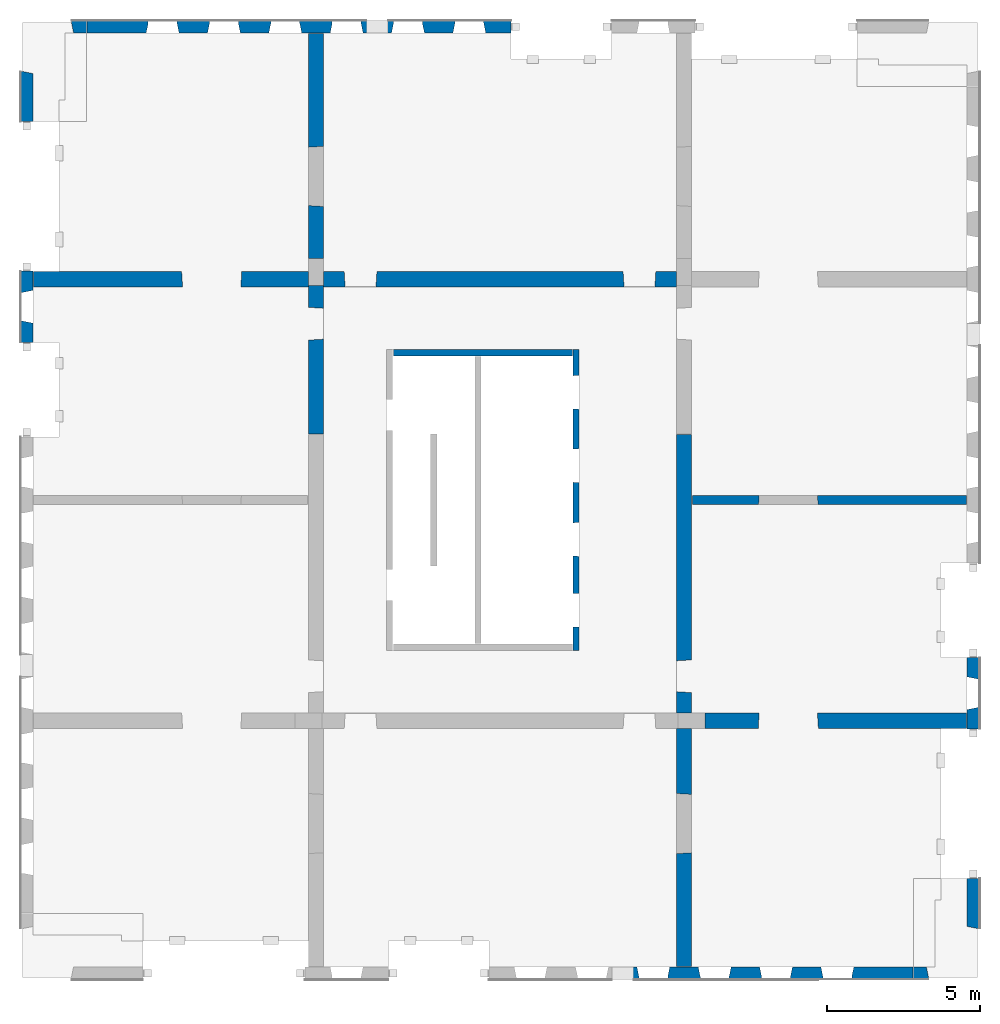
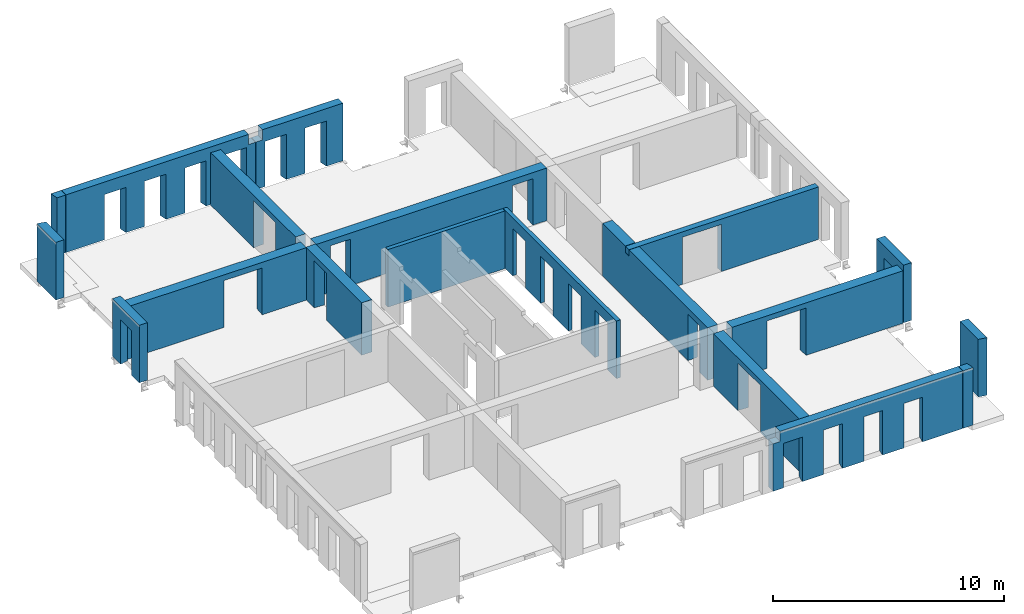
# One storey, part 3 of 6: 19 walls, 34 openings.
"""IFC2X3 building model written with IfcOpenShell, lengths in millimetres."""

import ifcopenshell
import ifcopenshell.guid

model = None  # the IFC model being written
_history = None  # IfcOwnerHistory: only IFC2X3 demands one
_inside = {}  # id of a spatial element -> (the spatial element, [elements in it])
_under = {}  # id of a project, library or spatial element -> (it, [spatial elements below it])
_declared = {}  # id of a project -> (the project, [libraries it declares])
_typed = {}  # id of a type object -> (the type object, [elements of that type])
_made_of = {}  # id of a material, layer set ... -> (it, [elements and type objects made of it])


def new_model(schema):
    """Start an empty IFC model of exactly this schema.

    Asked for "IFC4X3", IfcOpenShell would pick the latest addendum, in which some entities
    have other attributes; the version numbers below select the first issue.
    IFC2X3 requires an IfcOwnerHistory on every rooted entity: one is made here for all.
    """
    global model, _history
    if schema == "IFC4X3":
        model = ifcopenshell.file(schema_version=(4, 3, 0, 0))
    else:
        model = ifcopenshell.file(schema=schema)
    _inside.clear()
    _under.clear()
    _declared.clear()
    _typed.clear()
    _made_of.clear()
    _history = None
    if model.schema == "IFC2X3":
        org = make("IfcOrganization", Name="unknown")
        user = make(
            "IfcPersonAndOrganization",
            ThePerson=make("IfcPerson", FamilyName="unknown"),
            TheOrganization=org,
        )
        app = make(
            "IfcApplication",
            ApplicationDeveloper=org,
            Version="unknown",
            ApplicationFullName="unknown",
            ApplicationIdentifier="unknown",
        )
        _history = make(
            "IfcOwnerHistory",
            OwningUser=user,
            OwningApplication=app,
            ChangeAction="ADDED",
            CreationDate=0,
        )
    return model


def make(cls, **values):
    """One entity of the class cls with the attributes given. An attribute that is None is left unset."""
    return model.create_entity(
        cls, **{name: value for name, value in values.items() if value is not None}
    )


def entity(cls, *values):
    """Any entity or typed value of the class cls, its attributes in the order of the schema. None: left unset."""
    e = model.create_entity(cls)
    for i, value in enumerate(values):
        if value is not None:
            e[i] = value
    return e


def rooted(cls, **values):
    """An entity with a GlobalId (a new one), such as an element, a storey or a relation."""
    return make(cls, GlobalId=ifcopenshell.guid.new(), OwnerHistory=_history, **values)


def si_unit(unit_type, name, prefix=None):
    """IfcSIUnit, for example si_unit("LENGTHUNIT", "METRE", prefix="MILLI")."""
    return make("IfcSIUnit", UnitType=unit_type, Prefix=prefix, Name=name)


def converted_unit(unit_type, name, factor, base, dimensions=None, offset=None):
    """IfcConversionBasedUnit, such as the inch: factor (a typed value) times the base unit."""
    return make(
        "IfcConversionBasedUnit"
        if offset is None
        else "IfcConversionBasedUnitWithOffset",
        ConversionOffset=offset,
        Dimensions=None
        if dimensions is None
        else entity("IfcDimensionalExponents", *dimensions),
        UnitType=unit_type,
        Name=name,
        ConversionFactor=make(
            "IfcMeasureWithUnit", ValueComponent=factor, UnitComponent=base
        ),
    )


def derived_unit(unit_type, elements):
    """IfcDerivedUnit: a product of units, each with its exponent."""
    return make(
        "IfcDerivedUnit",
        Elements=[
            make("IfcDerivedUnitElement", Unit=unit, Exponent=power)
            for unit, power in elements
        ],
        UnitType=unit_type,
    )


def assignment(units):
    """IfcUnitAssignment: the units of a project."""
    return None if units is None else make("IfcUnitAssignment", Units=units)


def point(xyz):
    """IfcCartesianPoint."""
    return None if xyz is None else make("IfcCartesianPoint", Coordinates=xyz)


def direction(xyz):
    """IfcDirection."""
    return None if xyz is None else make("IfcDirection", DirectionRatios=xyz)


def frame(location, z_axis=None, x_axis=None):
    """IfcAxis2Placement3D, a coordinate frame: its origin and axes. An axis left out is left unset."""
    return make(
        "IfcAxis2Placement3D",
        Location=point(location),
        Axis=direction(z_axis),
        RefDirection=direction(x_axis),
    )


def frame_2d(location, x_axis=None):
    """IfcAxis2Placement2D, a coordinate frame in the plane: its origin and x axis."""
    return make(
        "IfcAxis2Placement2D", Location=point(location), RefDirection=direction(x_axis)
    )


def origin():
    """The frame at (0, 0, 0) with its axes left unset."""
    return frame((0.0, 0.0, 0.0))


def place(relative_to, where):
    """IfcLocalPlacement: puts the frame where relative to a parent placement (None: the world)."""
    return make(
        "IfcLocalPlacement", PlacementRelTo=relative_to, RelativePlacement=where
    )


def context(
    kind, dimensions, precision=None, world=None, true_north=None, identifier=None
):
    """IfcGeometricRepresentationContext, for example the 3D "Model" context."""
    return make(
        "IfcGeometricRepresentationContext",
        ContextIdentifier=identifier,
        ContextType=kind,
        CoordinateSpaceDimension=dimensions,
        Precision=precision,
        WorldCoordinateSystem=world,
        TrueNorth=true_north,
    )


def subcontext(parent, identifier, kind, view, scale=None):
    """IfcGeometricRepresentationSubContext, for example "Body" below "Model"."""
    return make(
        "IfcGeometricRepresentationSubContext",
        ContextIdentifier=identifier,
        ContextType=kind,
        ParentContext=parent,
        TargetScale=scale,
        TargetView=view,
    )


def project(units=None, contexts=None):
    """IfcProject with its units and contexts."""
    return rooted(
        "IfcProject",
        Name="project",
        RepresentationContexts=contexts,
        UnitsInContext=assignment(units),
    )


def spatial(cls, under=None, at=None, **own):
    """A site, building, storey or space (cls), placed at a placement, below another one or the project."""
    s = rooted(cls, ObjectPlacement=at, **own)
    if under is not None:
        _under.setdefault(under.id(), (under, []))[1].append(s)
    return s


def profile(cls, at=None, kind="AREA", **sizes):
    """A parametric profile (cls). Its sizes go by their IFC names, for example OverallWidth=200.0."""
    return make(cls, ProfileType=kind, Position=at, **sizes)


def rectangle(**sizes):
    """IfcRectangleProfileDef."""
    return profile("IfcRectangleProfileDef", **sizes)


def extrude(swept, where, along, depth):
    """IfcExtrudedAreaSolid: the profile swept, set in the frame where, extruded along a direction by depth."""
    return make(
        "IfcExtrudedAreaSolid",
        SweptArea=swept,
        Position=where,
        ExtrudedDirection=direction(along),
        Depth=depth,
    )


def faces_of(points, faces, orient=None, outer=None):
    """IfcFace entities. A face is a list of loops; a loop is a list of indices into points, from 0.

    orient and outer hold one flag for each loop. By default every Orientation is true, the
    first loop of a face is its IfcFaceOuterBound and the others are IfcFaceBound.
    """
    made = []
    for i, loops in enumerate(faces):
        bounds = []
        for j, loop in enumerate(loops):
            is_outer = j == 0 if outer is None else outer[i][j]
            bounds.append(
                make(
                    "IfcFaceOuterBound" if is_outer else "IfcFaceBound",
                    Bound=make("IfcPolyLoop", Polygon=[points[k] for k in loop]),
                    Orientation=True if orient is None else orient[i][j],
                )
            )
        made.append(make("IfcFace", Bounds=bounds))
    return made


def faceted_brep(points, faces, orient=None, outer=None, voids=None):
    """IfcFacetedBrep: a solid bounded by flat faces; with voids (closed shells), ...WithVoids."""
    shared = [point(p) for p in points]
    hull = make("IfcClosedShell", CfsFaces=faces_of(shared, faces, orient, outer))
    if voids is None:
        return make("IfcFacetedBrep", Outer=hull)
    return make(
        "IfcFacetedBrepWithVoids",
        Outer=hull,
        Voids=[
            make(cls, CfsFaces=faces_of(shared, fs, o, b)) for cls, fs, o, b in voids
        ],
    )


def shape(context_of_items, identifier, shape_type, items):
    """IfcShapeRepresentation: the items that make up one representation, for example the "Body"."""
    return make(
        "IfcShapeRepresentation",
        ContextOfItems=context_of_items,
        RepresentationIdentifier=identifier,
        RepresentationType=shape_type,
        Items=items,
    )


def material(Name=None, Category=None):
    """IfcMaterial."""
    return make("IfcMaterial", Name=Name, Category=Category)


def layer(
    of_material, thickness, ventilated=None, Name=None, Category=None, Priority=None
):
    """IfcMaterialLayer: one layer of a wall or slab, of a material (None: an air gap)."""
    return make(
        "IfcMaterialLayer",
        Material=of_material,
        LayerThickness=thickness,
        IsVentilated=ventilated,
        Name=Name,
        Category=Category,
        Priority=Priority,
    )


def layer_set(layers, Name=None):
    """IfcMaterialLayerSet."""
    return make("IfcMaterialLayerSet", MaterialLayers=layers, LayerSetName=Name)


def layer_usage(for_layer_set, set_direction, sense, offset, extent=None):
    """IfcMaterialLayerSetUsage: how a layer set lies in its element."""
    return make(
        "IfcMaterialLayerSetUsage",
        ForLayerSet=for_layer_set,
        LayerSetDirection=set_direction,
        DirectionSense=sense,
        OffsetFromReferenceLine=offset,
        ReferenceExtent=extent,
    )


def made_of(thing, what):
    """Note that an element or type object is made of a material, layer set ...; save() writes the relation."""
    if what is not None:
        _made_of.setdefault(what.id(), (what, []))[1].append(thing)
    return thing


def type_object(cls, material=None, **own):
    """A type object (cls), such as IfcWallType, which elements share."""
    return made_of(rooted(cls, **own), material)


def element(
    cls,
    number,
    at=None,
    inside=None,
    cuts=None,
    type_object=None,
    material=None,
    context=None,
    identifier="Body",
    shape_type=None,
    held_by="IfcProductDefinitionShape",
    body=None,
    shapes=None,
    **own,
):
    """One element of the class cls, such as IfcWall. Its Tag is "e" and its number.

    at: its placement. inside: the storey or other place that contains it. cuts: it is an
    opening in that element (IfcRelVoidsElement). A single representation is given by context,
    identifier, shape_type and body (its items); several are given by shapes. held_by: the class
    of the entity that holds the representations. save() writes the other relations.
    """
    e = rooted(cls, Tag="e%d" % number, ObjectPlacement=at, **own)
    if body is not None:
        shapes = [shape(context, identifier, shape_type, body)]
    if shapes is not None:
        e.Representation = make(held_by, Representations=shapes)
    if inside is not None:
        _inside.setdefault(inside.id(), (inside, []))[1].append(e)
    if cuts is not None:
        rooted(
            "IfcRelVoidsElement", RelatingBuildingElement=cuts, RelatedOpeningElement=e
        )
    if type_object is not None:
        _typed.setdefault(type_object.id(), (type_object, []))[1].append(e)
    return made_of(e, material)


def aggregate(whole, parts):
    """IfcRelAggregates: a whole, such as a stair, and the parts it consists of."""
    return rooted("IfcRelAggregates", RelatingObject=whole, RelatedObjects=parts)


def save(model, path):
    """Write the relations noted so far, then the file.

    IfcRelAggregates (storeys below a building ...), IfcRelContainedInSpatialStructure (elements
    in a storey), IfcRelDefinesByType, IfcRelAssociatesMaterial and IfcRelDeclares: one each for
    every whole, place, type object, material and project.
    """
    for whole, parts in _under.values():
        aggregate(whole, parts)
    for where, things in _inside.values():
        rooted(
            "IfcRelContainedInSpatialStructure",
            RelatedElements=things,
            RelatingStructure=where,
        )
    for kind, things in _typed.values():
        rooted("IfcRelDefinesByType", RelatedObjects=things, RelatingType=kind)
    for what, things in _made_of.values():
        rooted("IfcRelAssociatesMaterial", RelatedObjects=things, RelatingMaterial=what)
    for by, libraries in _declared.values():
        rooted("IfcRelDeclares", RelatingContext=by, RelatedDefinitions=libraries)
    model.write(path)


model = new_model("IFC2X3")

# Units and contexts
model_context = context("Model", 3, precision=0.01, world=origin(), true_north=direction((6.12303176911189e-17, 1.0)))
body_context = subcontext(model_context, "Body", "Model", "MODEL_VIEW")
ifc_project = project(units=[si_unit("LENGTHUNIT", "METRE", prefix="MILLI"), si_unit("AREAUNIT", "SQUARE_METRE"), si_unit("VOLUMEUNIT", "CUBIC_METRE"), converted_unit("PLANEANGLEUNIT", "DEGREE", entity("IfcRatioMeasure", 0.0174532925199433), si_unit("PLANEANGLEUNIT", "RADIAN"), dimensions=[0, 0, 0, 0, 0, 0, 0]), si_unit("MASSUNIT", "GRAM", prefix="KILO"), derived_unit("MASSDENSITYUNIT", [(si_unit("MASSUNIT", "GRAM", prefix="KILO"), 1), (si_unit("LENGTHUNIT", "METRE"), -3)]), si_unit("TIMEUNIT", "SECOND"), si_unit("FREQUENCYUNIT", "HERTZ"), si_unit("THERMODYNAMICTEMPERATUREUNIT", "DEGREE_CELSIUS"), derived_unit("THERMALTRANSMITTANCEUNIT", [(si_unit("MASSUNIT", "GRAM", prefix="KILO"), 1), (si_unit("THERMODYNAMICTEMPERATUREUNIT", "KELVIN"), -1), (si_unit("TIMEUNIT", "SECOND"), -3)]), derived_unit("VOLUMETRICFLOWRATEUNIT", [(si_unit("LENGTHUNIT", "METRE"), 3), (si_unit("TIMEUNIT", "SECOND"), -1)]), si_unit("ELECTRICCURRENTUNIT", "AMPERE"), si_unit("ELECTRICVOLTAGEUNIT", "VOLT"), si_unit("POWERUNIT", "WATT"), si_unit("FORCEUNIT", "NEWTON", prefix="KILO"), si_unit("ILLUMINANCEUNIT", "LUX"), si_unit("LUMINOUSFLUXUNIT", "LUMEN"), si_unit("LUMINOUSINTENSITYUNIT", "CANDELA"), derived_unit("USERDEFINED", [(si_unit("MASSUNIT", "GRAM", prefix="KILO"), -1), (si_unit("LENGTHUNIT", "METRE"), -2), (si_unit("TIMEUNIT", "SECOND"), 3), (si_unit("LUMINOUSFLUXUNIT", "LUMEN"), 1)]), derived_unit("LINEARVELOCITYUNIT", [(si_unit("LENGTHUNIT", "METRE"), 1), (si_unit("TIMEUNIT", "SECOND"), -1)]), si_unit("PRESSUREUNIT", "PASCAL"), derived_unit("USERDEFINED", [(si_unit("LENGTHUNIT", "METRE"), -2), (si_unit("MASSUNIT", "GRAM", prefix="KILO"), 1), (si_unit("TIMEUNIT", "SECOND"), -2)])], contexts=[model_context])

# Site, building, storey
site_placement = place(None, origin())
site = spatial("IfcSite", under=ifc_project, at=site_placement, Name="Default", CompositionType="ELEMENT")
building_placement = place(site_placement, origin())
building = spatial("IfcBuilding", under=site, at=building_placement, Name="niet gebruiken", CompositionType="ELEMENT")
storey_placement = place(building_placement, frame((0.0, 0.0, 21060.0)))
storey = spatial("IfcBuildingStorey", under=building, at=storey_placement, Name="06 zesde verdieping", CompositionType="ELEMENT", Elevation=21060.0)

# Wall, openings
ifc_material = material(Name="NLRS_f2_beton prefab")
ifc_layer_1 = layer(ifc_material, 200.0)
ifc_layer_set_1 = layer_set([ifc_layer_1], Name="Basic Wall:NLRS_22.21_WA_beton prefab d=200_gen")
ifc_layer_usage_1 = layer_usage(ifc_layer_set_1, "AXIS2", "NEGATIVE", 100.0)
wall_type_1 = type_object("IfcWallType", Name="Basic Wall:NLRS_22.21_WA_beton prefab d=200_gen", PredefinedType="STANDARD", material=ifc_layer_set_1)
wall_1_placement = place(storey_placement, frame((144230.0, 22400.0, -50.0), z_axis=(0.0, 0.0, 1.0), x_axis=(0.0, -1.0, 0.0)))
wall_1 = element("IfcWallStandardCase", 1, at=wall_1_placement, inside=storey, type_object=wall_type_1, material=ifc_layer_usage_1, Name="Basic Wall:NLRS_22.21_WA_beton prefab d=200_gen", ObjectType="Basic Wall:NLRS_22.21_WA_beton prefab d=200_gen", context=body_context, shape_type="SweptSolid", body=[
    extrude(rectangle(XDim=9800.0, YDim=199.999999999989, at=frame_2d((4900.0, -3.69482222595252e-13), x_axis=(-1.0, 0.0))), origin(), (0.0, 0.0, 1.0), 3039.99999999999),
])
opening_1_placement = place(wall_1_placement, frame((9047.0, -100.0, 0.0)))
element("IfcOpeningElement", 2, at=opening_1_placement, cuts=wall_1, Name="Basic Wall:NLRS_22.21_WA_beton prefab d=200_gen", ObjectType="Opening", context=body_context, shape_type="Brep", body=[
    faceted_brep([(-1104.0, 200.0, 2502.0), (-1104.0, 200.0, 0.0), (-1092.0, 0.0, 0.0), (-1092.0, 0.0, 2490.0), (0.0, 200.0, 0.0), (-12.0, 0.0, 0.0), (-12.0, 0.0, 2490.0), (0.0, 200.0, 2502.0)], [[[0, 1, 2, 3]], [[1, 4, 5, 2]], [[6, 3, 2, 5]], [[7, 4, 1, 0]], [[7, 0, 3, 6]], [[4, 7, 6, 5]]]),
])
opening_2_placement = place(wall_1_placement, frame((6737.0, -100.0, 0.0)))
element("IfcOpeningElement", 3, at=opening_2_placement, cuts=wall_1, Name="Basic Wall:NLRS_22.21_WA_beton prefab d=200_gen", ObjectType="Opening", context=body_context, shape_type="Brep", body=[
    faceted_brep([(-1104.0, 200.0, 2502.0), (-1104.0, 200.0, 0.0), (-1092.0, 0.0, 0.0), (-1092.0, 0.0, 2490.0), (0.0, 200.0, 0.0), (-12.0, 0.0, 0.0), (-12.0, 0.0, 2490.0), (0.0, 200.0, 2502.0)], [[[0, 1, 2, 3]], [[1, 4, 5, 2]], [[6, 3, 2, 5]], [[7, 4, 1, 0]], [[7, 0, 3, 6]], [[4, 7, 6, 5]]]),
])
opening_3_placement = place(wall_1_placement, frame((4332.0, -100.0, 0.0)))
element("IfcOpeningElement", 4, at=opening_3_placement, cuts=wall_1, Name="Basic Wall:NLRS_22.21_WA_beton prefab d=200_gen", ObjectType="Opening", context=body_context, shape_type="Brep", body=[
    faceted_brep([(-1104.0, 200.0, 2502.0), (-1104.0, 200.0, 0.0), (-1092.0, 0.0, 0.0), (-1092.0, 0.0, 2490.0), (0.0, 200.0, 0.0), (-12.0, 0.0, 0.0), (-12.0, 0.0, 2490.0), (0.0, 200.0, 2502.0)], [[[0, 1, 2, 3]], [[1, 4, 5, 2]], [[6, 3, 2, 5]], [[7, 4, 1, 0]], [[7, 0, 3, 6]], [[4, 7, 6, 5]]]),
])
opening_4_placement = place(wall_1_placement, frame((1942.0, -100.0, 0.0)))
element("IfcOpeningElement", 5, at=opening_4_placement, cuts=wall_1, Name="Basic Wall:NLRS_22.21_WA_beton prefab d=200_gen", ObjectType="Opening", context=body_context, shape_type="Brep", body=[
    faceted_brep([(-1104.0, 200.0, 2502.0), (-1104.0, 200.0, 0.0), (-1092.0, 0.0, 0.0), (-1092.0, 0.0, 2490.0), (0.0, 200.0, 0.0), (-12.0, 0.0, 0.0), (-12.0, 0.0, 2490.0), (0.0, 200.0, 2502.0)], [[[0, 1, 2, 3]], [[1, 4, 5, 2]], [[6, 3, 2, 5]], [[7, 4, 1, 0]], [[7, 0, 3, 6]], [[4, 7, 6, 5]]]),
])

# Wall
ifc_layer_usage_2 = layer_usage(ifc_layer_set_1, "AXIS2", "NEGATIVE", 100.0)
wall_2_placement = place(storey_placement, frame((138270.0, 22300.0, -50.0)))
element("IfcWallStandardCase", 6, at=wall_2_placement, inside=storey, type_object=wall_type_1, material=ifc_layer_usage_2, Name="Basic Wall:NLRS_22.21_WA_beton prefab d=200_gen", ObjectType="Basic Wall:NLRS_22.21_WA_beton prefab d=200_gen", context=body_context, shape_type="SweptSolid", body=[
    extrude(rectangle(XDim=5839.99999999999, YDim=199.999999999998, at=frame_2d((2919.99999999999, -7.60280727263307e-13), x_axis=(-1.0, 0.0))), origin(), (0.0, 0.0, 1.0), 3039.99999999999),
])

# Wall, openings
ifc_layer_2 = layer(ifc_material, 300.0)
ifc_layer_set_2 = layer_set([ifc_layer_2], Name="Basic Wall:NLRS_22.21_WA_beton prefab d=300_gen")
ifc_layer_usage_3 = layer_usage(ifc_layer_set_2, "AXIS2", "NEGATIVE", 150.0)
wall_type_2 = type_object("IfcWallType", Name="Basic Wall:NLRS_22.21_WA_beton prefab d=300_gen", PredefinedType="STANDARD", material=ifc_layer_set_2)
wall_3_placement = place(storey_placement, frame((156960.0, 17500.0, -70.0), z_axis=(0.0, 0.0, 1.0), x_axis=(-1.0, 0.0, 0.0)))
wall_3 = element("IfcWallStandardCase", 7, at=wall_3_placement, inside=storey, type_object=wall_type_2, material=ifc_layer_usage_3, Name="Basic Wall:NLRS_22.21_WA_beton prefab d=300_gen", ObjectType="Basic Wall:NLRS_22.21_WA_beton prefab d=300_gen", context=body_context, shape_type="SweptSolid", body=[
    extrude(rectangle(XDim=9459.99999999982, YDim=300.000000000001, at=frame_2d((4729.99999999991, 2.27373675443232e-13), x_axis=(-1.0, 0.0))), origin(), (0.0, 0.0, 1.0), 2770.0),
])
opening_5_placement = place(wall_3_placement, frame((6778.0, 150.0, 0.0)))
element("IfcOpeningElement", 8, at=opening_5_placement, cuts=wall_3, Name="Basic Wall:NLRS_22.21_WA_beton prefab d=300_gen", ObjectType="Opening", context=body_context, shape_type="Brep", body=[
    faceted_brep([(-18.0, -300.0, 2470.0), (-1918.0, -300.0, 2470.0), (-1918.0, -300.0, 0.0), (-18.0, -300.0, 0.0), (0.0, 0.0, 2488.0), (0.0, 0.0, 0.0), (-1936.0, 0.0, 0.0), (-1936.0, 0.0, 2488.0)], [[[0, 1, 2, 3]], [[4, 5, 6, 7]], [[4, 7, 1, 0]], [[7, 6, 2, 1]], [[6, 5, 3, 2]], [[5, 4, 0, 3]]]),
])
opening_6_placement = place(wall_3_placement, origin())
element("IfcOpeningElement", 9, at=opening_6_placement, cuts=wall_3, Name="Basic Wall:NLRS_22.21_WA_beton prefab d=300_gen", ObjectType="Opening", context=body_context, shape_type="SweptSolid", body=[
    extrude(rectangle(XDim=2440.0, YDim=520.000000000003, at=frame_2d((8.64019966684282e-12, 2.1600499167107e-12), x_axis=(0.0, 1.0))), frame((9200.0, 150.0, 1220.0), z_axis=(0.0, -1.0, 0.0), x_axis=(1.0, 0.0, 0.0)), (0.0, 0.0, 1.0), 300.0),
])

# Wall, opening
ifc_layer_3 = layer(ifc_material, 400.0)
ifc_layer_set_3 = layer_set([ifc_layer_3], Name="Basic Wall:NLRS_21.21_WA_beton prefab d=400/420_gen")
ifc_layer_usage_4 = layer_usage(ifc_layer_set_3, "AXIS2", "NEGATIVE", 200.0)
wall_type_3 = type_object("IfcWallType", Name="Basic Wall:NLRS_21.21_WA_beton prefab d=400/420_gen", PredefinedType="STANDARD", material=ifc_layer_set_3)
wall_4_placement = place(storey_placement, frame((155720.0, 2070.0, -50.0), z_axis=(0.0, 0.0, 1.0), x_axis=(-1.0, 0.0, 0.0)))
wall_4 = element("IfcWallStandardCase", 10, at=wall_4_placement, inside=storey, type_object=wall_type_3, material=ifc_layer_usage_4, Name="Basic Wall:NLRS_21.21_WA_beton prefab d=400/420_gen", ObjectType="Basic Wall:NLRS_21.21_WA_beton prefab d=400/420_gen", context=body_context, shape_type="SweptSolid", body=[
    extrude(rectangle(XDim=490.000000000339, YDim=400.0, at=frame_2d((245.00000000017, 4.2632564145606e-14), x_axis=(-1.0, 0.0))), origin(), (0.0, 0.0, 1.0), 3040.0),
])
opening_7_placement = place(wall_4_placement, frame((65.0, 119.0, 0.0)))
element("IfcOpeningElement", 11, at=opening_7_placement, cuts=wall_4, Name="Basic Wall:NLRS_21.21_WA_beton prefab d=400/420_gen", ObjectType="Opening", context=body_context, shape_type="Brep", body=[
    faceted_brep([(-65.0, -319.0, 3040.0), (0.0, -319.0, 3040.0), (-65.0, 0.0, 3040.0), (-65.0, -319.0, 0.0), (-65.0, 0.0, 0.0), (0.0, -319.0, 0.0)], [[[0, 1, 2]], [[3, 4, 5]], [[1, 0, 3, 5]], [[0, 2, 4, 3]], [[2, 1, 5, 4]]]),
])

ifc_layer_usage_5 = layer_usage(ifc_layer_set_3, "AXIS2", "NEGATIVE", 200.0)
wall_5_placement = place(storey_placement, frame((157180.0, 5160.0, -50.0), z_axis=(0.0, 0.0, 1.0), x_axis=(0.0, -1.0, 0.0)))
wall_5 = element("IfcWallStandardCase", 12, at=wall_5_placement, inside=storey, type_object=wall_type_3, material=ifc_layer_usage_5, Name="Basic Wall:NLRS_21.21_WA_beton prefab d=400/420_gen", ObjectType="Basic Wall:NLRS_21.21_WA_beton prefab d=400/420_gen", context=body_context, shape_type="SweptSolid", body=[
    extrude(rectangle(XDim=1629.99999999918, YDim=399.999999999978, at=frame_2d((814.999999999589, 6.28119778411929e-12), x_axis=(-1.0, 0.0))), origin(), (0.0, 0.0, 1.0), 3040.0),
])
opening_8_placement = place(wall_5_placement, frame((1630.0, -200.0, 0.0)))
element("IfcOpeningElement", 13, at=opening_8_placement, cuts=wall_5, Name="Basic Wall:NLRS_21.21_WA_beton prefab d=400/420_gen", ObjectType="Opening", context=body_context, shape_type="Brep", body=[
    faceted_brep([(0.0, 0.0, 3040.0), (0.0, 319.0, 3040.0), (-65.0, 0.0, 3040.0), (0.0, 0.0, 0.0), (-65.0, 0.0, 0.0), (0.0, 319.0, 0.0)], [[[0, 1, 2]], [[3, 4, 5]], [[2, 4, 3, 0]], [[0, 3, 5, 1]], [[1, 5, 4, 2]]]),
])

ifc_layer_usage_6 = layer_usage(ifc_layer_set_3, "AXIS2", "NEGATIVE", 200.0)
wall_6_placement = place(storey_placement, frame((127780.0, 32930.0, -50.0)))
wall_6 = element("IfcWallStandardCase", 14, at=wall_6_placement, inside=storey, type_object=wall_type_3, material=ifc_layer_usage_6, Name="Basic Wall:NLRS_21.21_WA_beton prefab d=400/420_gen", ObjectType="Basic Wall:NLRS_21.21_WA_beton prefab d=400/420_gen", context=body_context, shape_type="SweptSolid", body=[
    extrude(rectangle(XDim=490.000000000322, YDim=400.000000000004, at=frame_2d((245.000000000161, 1.06581410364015e-12), x_axis=(-1.0, 0.0))), origin(), (0.0, 0.0, 1.0), 3040.0),
])
opening_9_placement = place(wall_6_placement, frame((0.0, -200.0, 0.0)))
element("IfcOpeningElement", 15, at=opening_9_placement, cuts=wall_6, Name="Basic Wall:NLRS_21.21_WA_beton prefab d=400/420_gen", ObjectType="Opening", context=body_context, shape_type="Brep", body=[
    faceted_brep([(0.0, 0.0, 3040.0), (65.0, 0.0, 3040.0), (0.0, 319.0, 3040.0), (0.0, 0.0, 0.0), (0.0, 319.0, 0.0), (65.0, 0.0, 0.0)], [[[0, 1, 2]], [[3, 4, 5]], [[1, 0, 3, 5]], [[0, 2, 4, 3]], [[2, 1, 5, 4]]]),
])

ifc_layer_usage_7 = layer_usage(ifc_layer_set_3, "AXIS2", "NEGATIVE", 200.0)
wall_7_placement = place(storey_placement, frame((126320.0, 29840.0, -50.0), z_axis=(0.0, 0.0, 1.0), x_axis=(0.0, 1.0, 0.0)))
wall_7 = element("IfcWallStandardCase", 16, at=wall_7_placement, inside=storey, type_object=wall_type_3, material=ifc_layer_usage_7, Name="Basic Wall:NLRS_21.21_WA_beton prefab d=400/420_gen", ObjectType="Basic Wall:NLRS_21.21_WA_beton prefab d=400/420_gen", context=body_context, shape_type="SweptSolid", body=[
    extrude(rectangle(XDim=1629.99999999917, YDim=400.000000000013, at=frame_2d((814.999999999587, 2.41584530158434e-12), x_axis=(-1.0, 0.0))), origin(), (0.0, 0.0, 1.0), 3040.0),
])
opening_10_placement = place(wall_7_placement, frame((1565.0, 119.0, 0.0)))
element("IfcOpeningElement", 17, at=opening_10_placement, cuts=wall_7, Name="Basic Wall:NLRS_21.21_WA_beton prefab d=400/420_gen", ObjectType="Opening", context=body_context, shape_type="Brep", body=[
    faceted_brep([(65.0, -319.0, 3040.0), (65.0, 0.0, 3040.0), (0.0, -319.0, 3040.0), (65.0, -319.0, 0.0), (0.0, -319.0, 0.0), (65.0, 0.0, 0.0)], [[[0, 1, 2]], [[3, 4, 5]], [[2, 4, 3, 0]], [[0, 3, 5, 1]], [[1, 5, 4, 2]]]),
])

ifc_layer_usage_8 = layer_usage(ifc_layer_set_3, "AXIS2", "NEGATIVE", 200.0)
wall_8_placement = place(storey_placement, frame((126320.0, 22640.0, -50.0), z_axis=(0.0, 0.0, 1.0), x_axis=(0.0, 1.0, 0.0)))
wall_8 = element("IfcWallStandardCase", 18, at=wall_8_placement, inside=storey, type_object=wall_type_3, material=ifc_layer_usage_8, Name="Basic Wall:NLRS_21.21_WA_beton prefab d=400/420_gen", ObjectType="Basic Wall:NLRS_21.21_WA_beton prefab d=400/420_gen", context=body_context, shape_type="SweptSolid", body=[
    extrude(rectangle(XDim=2320.0, YDim=400.000000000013, at=frame_2d((1160.0, -3.62376795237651e-12), x_axis=(-1.0, 0.0))), origin(), (0.0, 0.0, 1.0), 3040.0),
])
opening_11_placement = place(wall_8_placement, frame((625.0, 200.0, -20.0)))
element("IfcOpeningElement", 19, at=opening_11_placement, cuts=wall_8, Name="Basic Wall:NLRS_21.21_WA_beton prefab d=400/420_gen", ObjectType="Opening", context=body_context, shape_type="Brep", body=[
    faceted_brep([(0.0, -400.0, 2405.0), (0.0, -400.0, 0.0), (1070.0, -400.0, 0.0), (1070.0, -400.0, 2405.0), (1005.0, -81.0, 2370.0), (65.0, -81.0, 2370.0), (1005.0, -81.0, 0.0), (65.0, -81.0, 0.0), (65.0, 0.0, 0.0), (1005.0, 0.0, 0.0), (65.0, 0.0, 2370.0), (1005.0, 0.0, 2370.0)], [[[0, 1, 2, 3]], [[3, 4, 5, 0]], [[2, 6, 4, 3]], [[1, 7, 8, 9, 6, 2]], [[0, 5, 7, 1]], [[10, 11, 9, 8]], [[10, 5, 4, 11]], [[11, 4, 6, 9]], [[8, 7, 5, 10]]]),
])

# Wall, openings
ifc_layer_usage_9 = layer_usage(ifc_layer_set_3, "AXIS2", "NEGATIVE", 200.0)
wall_9_placement = place(storey_placement, frame((128290.0, 32930.0, -50.0)))
wall_9 = element("IfcWallStandardCase", 20, at=wall_9_placement, inside=storey, type_object=wall_type_3, material=ifc_layer_usage_9, Name="Basic Wall:NLRS_21.21_WA_beton prefab d=400/420_gen", ObjectType="Basic Wall:NLRS_21.21_WA_beton prefab d=400/420_gen", context=body_context, shape_type="SweptSolid", body=[
    extrude(rectangle(XDim=9449.99999999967, YDim=399.999999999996, at=frame_2d((4724.99999999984, 0.0), x_axis=(-1.0, 0.0))), origin(), (0.0, 0.0, 1.0), 3040.0),
])
opening_12_placement = place(wall_9_placement, frame((3925.0, -200.0, -20.0)))
element("IfcOpeningElement", 21, at=opening_12_placement, cuts=wall_9, Name="Basic Wall:NLRS_21.21_WA_beton prefab d=400/420_gen", ObjectType="Opening", context=body_context, shape_type="Brep", body=[
    faceted_brep([(1070.0, 0.0, 2405.0), (0.0, 0.0, 2405.0), (0.0, 0.0, 0.0), (1070.0, 0.0, 0.0), (1005.0, 319.0, 2370.0), (65.0, 319.0, 2370.0), (65.0, 319.0, 0.0), (65.0, 400.0, 0.0), (1005.0, 400.0, 0.0), (1005.0, 319.0, 0.0), (1005.0, 400.0, 2370.0), (65.0, 400.0, 2370.0)], [[[0, 1, 2, 3]], [[1, 0, 4, 5]], [[2, 1, 5, 6]], [[3, 2, 6, 7, 8, 9]], [[0, 3, 9, 4]], [[10, 8, 7, 11]], [[10, 11, 5, 4]], [[11, 7, 6, 5]], [[8, 10, 4, 9]]]),
])
opening_13_placement = place(wall_9_placement, frame((1925.0, -200.0, -20.0)))
element("IfcOpeningElement", 22, at=opening_13_placement, cuts=wall_9, Name="Basic Wall:NLRS_21.21_WA_beton prefab d=400/420_gen", ObjectType="Opening", context=body_context, shape_type="Brep", body=[
    faceted_brep([(1070.0, 0.0, 2405.0), (0.0, 0.0, 2405.0), (0.0, 0.0, 0.0), (1070.0, 0.0, 0.0), (1005.0, 319.0, 2370.0), (65.0, 319.0, 2370.0), (65.0, 319.0, 0.0), (65.0, 400.0, 0.0), (1005.0, 400.0, 0.0), (1005.0, 319.0, 0.0), (1005.0, 400.0, 2370.0), (65.0, 400.0, 2370.0)], [[[0, 1, 2, 3]], [[1, 0, 4, 5]], [[2, 1, 5, 6]], [[3, 2, 6, 7, 8, 9]], [[0, 3, 9, 4]], [[10, 8, 7, 11]], [[10, 11, 5, 4]], [[11, 7, 6, 5]], [[8, 10, 4, 9]]]),
])
opening_14_placement = place(wall_9_placement, frame((7925.0, -200.0, -20.0)))
element("IfcOpeningElement", 23, at=opening_14_placement, cuts=wall_9, Name="Basic Wall:NLRS_21.21_WA_beton prefab d=400/420_gen", ObjectType="Opening", context=body_context, shape_type="Brep", body=[
    faceted_brep([(1070.0, 0.0, 2405.0), (0.0, 0.0, 2405.0), (0.0, 0.0, 0.0), (1070.0, 0.0, 0.0), (1005.0, 319.0, 2370.0), (65.0, 319.0, 2370.0), (65.0, 319.0, 0.0), (65.0, 400.0, 0.0), (1005.0, 400.0, 0.0), (1005.0, 319.0, 0.0), (1005.0, 400.0, 2370.0), (65.0, 400.0, 2370.0)], [[[0, 1, 2, 3]], [[1, 0, 4, 5]], [[2, 1, 5, 6]], [[3, 2, 6, 7, 8, 9]], [[0, 3, 9, 4]], [[10, 8, 7, 11]], [[10, 11, 5, 4]], [[11, 7, 6, 5]], [[8, 10, 4, 9]]]),
])
opening_15_placement = place(wall_9_placement, frame((5925.0, -200.0, -20.0)))
element("IfcOpeningElement", 24, at=opening_15_placement, cuts=wall_9, Name="Basic Wall:NLRS_21.21_WA_beton prefab d=400/420_gen", ObjectType="Opening", context=body_context, shape_type="Brep", body=[
    faceted_brep([(1070.0, 0.0, 2405.0), (0.0, 0.0, 2405.0), (0.0, 0.0, 0.0), (1070.0, 0.0, 0.0), (1005.0, 319.0, 2370.0), (65.0, 319.0, 2370.0), (65.0, 319.0, 0.0), (65.0, 400.0, 0.0), (1005.0, 400.0, 0.0), (1005.0, 319.0, 0.0), (1005.0, 400.0, 2370.0), (65.0, 400.0, 2370.0)], [[[0, 1, 2, 3]], [[1, 0, 4, 5]], [[2, 1, 5, 6]], [[3, 2, 6, 7, 8, 9]], [[0, 3, 9, 4]], [[10, 8, 7, 11]], [[10, 11, 5, 4]], [[11, 7, 6, 5]], [[8, 10, 4, 9]]]),
])
opening_16_placement = place(wall_9_placement, origin())
element("IfcOpeningElement", 25, at=opening_16_placement, cuts=wall_9, Name="Basic Wall:NLRS_21.21_WA_beton prefab d=400/420_gen", ObjectType="Opening", context=body_context, shape_type="SweptSolid", body=[
    extrude(rectangle(XDim=535.0, YDim=345.000000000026, at=frame_2d((0.0, -8.66862137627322e-12), x_axis=(1.0, 0.0))), frame((9277.49999999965, 200.0, 2772.5), z_axis=(0.0, -1.0, 0.0), x_axis=(0.0, 0.0, 1.0)), (0.0, 0.0, 1.0), 400.0),
])

# Wall, opening
ifc_layer_usage_10 = layer_usage(ifc_layer_set_3, "AXIS2", "NEGATIVE", 200.0)
wall_10_placement = place(storey_placement, frame((157180.0, 12360.0, -50.0), z_axis=(0.0, 0.0, 1.0), x_axis=(0.0, -1.0, 0.0)))
wall_10 = element("IfcWallStandardCase", 26, at=wall_10_placement, inside=storey, type_object=wall_type_3, material=ifc_layer_usage_10, Name="Basic Wall:NLRS_21.21_WA_beton prefab d=400/420_gen", ObjectType="Basic Wall:NLRS_21.21_WA_beton prefab d=400/420_gen", context=body_context, shape_type="SweptSolid", body=[
    extrude(rectangle(XDim=2320.0, YDim=399.999999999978, at=frame_2d((1160.0, -8.38440428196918e-12), x_axis=(-1.0, 0.0))), origin(), (0.0, 0.0, 1.0), 3040.0),
])
opening_17_placement = place(wall_10_placement, frame((1695.0, -200.0, -20.0)))
element("IfcOpeningElement", 27, at=opening_17_placement, cuts=wall_10, Name="Basic Wall:NLRS_21.21_WA_beton prefab d=400/420_gen", ObjectType="Opening", context=body_context, shape_type="Brep", body=[
    faceted_brep([(-1070.0, 0.0, 2405.0), (-1070.0, 0.0, 0.0), (0.0, 0.0, 0.0), (0.0, 0.0, 2405.0), (-65.0, 319.0, 2370.0), (-1005.0, 319.0, 2370.0), (-65.0, 319.0, 0.0), (-1005.0, 319.0, 0.0), (-1005.0, 400.0, 0.0), (-65.0, 400.0, 0.0), (-1005.0, 400.0, 2370.0), (-65.0, 400.0, 2370.0)], [[[0, 1, 2, 3]], [[3, 4, 5, 0]], [[2, 6, 4, 3]], [[1, 7, 8, 9, 6, 2]], [[0, 5, 7, 1]], [[10, 11, 9, 8]], [[10, 5, 4, 11]], [[11, 4, 6, 9]], [[8, 7, 5, 10]]]),
])

# Wall, openings
ifc_layer_usage_11 = layer_usage(ifc_layer_set_3, "AXIS2", "NEGATIVE", 200.0)
wall_11_placement = place(storey_placement, frame((137760.0, 32930.0, -50.0)))
wall_11 = element("IfcWallStandardCase", 28, at=wall_11_placement, inside=storey, type_object=wall_type_3, material=ifc_layer_usage_11, Name="Basic Wall:NLRS_21.21_WA_beton prefab d=400/420_gen", ObjectType="Basic Wall:NLRS_21.21_WA_beton prefab d=400/420_gen", context=body_context, shape_type="SweptSolid", body=[
    extrude(rectangle(XDim=4350.0000000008, YDim=399.999999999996, at=frame_2d((2175.0000000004, 0.0), x_axis=(-1.0, 0.0))), origin(), (0.0, 0.0, 1.0), 3040.0),
])
opening_18_placement = place(wall_11_placement, frame((2455.0, -200.0, -20.0)))
element("IfcOpeningElement", 29, at=opening_18_placement, cuts=wall_11, Name="Basic Wall:NLRS_21.21_WA_beton prefab d=400/420_gen", ObjectType="Opening", context=body_context, shape_type="Brep", body=[
    faceted_brep([(1070.0, 0.0, 2405.0), (0.0, 0.0, 2405.0), (0.0, 0.0, 0.0), (1070.0, 0.0, 0.0), (1005.0, 319.0, 2370.0), (65.0, 319.0, 2370.0), (65.0, 319.0, 0.0), (65.0, 400.0, 0.0), (1005.0, 400.0, 0.0), (1005.0, 319.0, 0.0), (1005.0, 400.0, 2370.0), (65.0, 400.0, 2370.0)], [[[0, 1, 2, 3]], [[1, 0, 4, 5]], [[2, 1, 5, 6]], [[3, 2, 6, 7, 8, 9]], [[0, 3, 9, 4]], [[10, 8, 7, 11]], [[10, 11, 5, 4]], [[11, 7, 6, 5]], [[8, 10, 4, 9]]]),
])
opening_19_placement = place(wall_11_placement, frame((455.0, -200.0, -20.0)))
element("IfcOpeningElement", 30, at=opening_19_placement, cuts=wall_11, Name="Basic Wall:NLRS_21.21_WA_beton prefab d=400/420_gen", ObjectType="Opening", context=body_context, shape_type="Brep", body=[
    faceted_brep([(1070.0, 0.0, 2405.0), (0.0, 0.0, 2405.0), (0.0, 0.0, 0.0), (1070.0, 0.0, 0.0), (1005.0, 319.0, 2370.0), (65.0, 319.0, 2370.0), (65.0, 319.0, 0.0), (65.0, 400.0, 0.0), (1005.0, 400.0, 0.0), (1005.0, 319.0, 0.0), (1005.0, 400.0, 2370.0), (65.0, 400.0, 2370.0)], [[[0, 1, 2, 3]], [[1, 0, 4, 5]], [[2, 1, 5, 6]], [[3, 2, 6, 7, 8, 9]], [[0, 3, 9, 4]], [[10, 8, 7, 11]], [[10, 11, 5, 4]], [[11, 7, 6, 5]], [[8, 10, 4, 9]]]),
])
opening_20_placement = place(wall_11_placement, origin())
element("IfcOpeningElement", 31, at=opening_20_placement, cuts=wall_11, Name="Basic Wall:NLRS_21.21_WA_beton prefab d=400/420_gen", ObjectType="Opening", context=body_context, shape_type="SweptSolid", body=[
    extrude(rectangle(XDim=535.0, YDim=345.000000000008, at=frame_2d((0.0, 0.0), x_axis=(0.0, 1.0))), frame((172.499999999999, 200.0, 2772.5), z_axis=(0.0, -1.0, 0.0), x_axis=(-1.0, 0.0, 0.0)), (0.0, 0.0, 1.0), 400.0),
])

ifc_layer_usage_12 = layer_usage(ifc_layer_set_3, "AXIS2", "NEGATIVE", 200.0)
wall_12_placement = place(storey_placement, frame((155210.0, 2070.0, -50.0), z_axis=(0.0, 0.0, 1.0), x_axis=(-1.0, 0.0, 0.0)))
wall_12 = element("IfcWallStandardCase", 32, at=wall_12_placement, inside=storey, type_object=wall_type_3, material=ifc_layer_usage_12, Name="Basic Wall:NLRS_21.21_WA_beton prefab d=400/420_gen", ObjectType="Basic Wall:NLRS_21.21_WA_beton prefab d=400/420_gen", context=body_context, shape_type="SweptSolid", body=[
    extrude(rectangle(XDim=9449.99999999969, YDim=400.0, at=frame_2d((4724.99999999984, -2.8421709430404e-14), x_axis=(-1.0, 0.0))), origin(), (0.0, 0.0, 1.0), 3040.0),
])
opening_21_placement = place(wall_12_placement, frame((4995.0, 200.0, -20.0)))
element("IfcOpeningElement", 33, at=opening_21_placement, cuts=wall_12, Name="Basic Wall:NLRS_21.21_WA_beton prefab d=400/420_gen", ObjectType="Opening", context=body_context, shape_type="Brep", body=[
    faceted_brep([(0.0, -400.0, 2405.0), (-1070.0, -400.0, 2405.0), (-1070.0, -400.0, 0.0), (0.0, -400.0, 0.0), (-65.0, -81.0, 2370.0), (-1005.0, -81.0, 2370.0), (-1005.0, -81.0, 0.0), (-1005.0, 0.0, 0.0), (-65.0, 0.0, 0.0), (-65.0, -81.0, 0.0), (-65.0, 0.0, 2370.0), (-1005.0, 0.0, 2370.0)], [[[0, 1, 2, 3]], [[1, 0, 4, 5]], [[2, 1, 5, 6]], [[3, 2, 6, 7, 8, 9]], [[0, 3, 9, 4]], [[10, 8, 7, 11]], [[10, 11, 5, 4]], [[11, 7, 6, 5]], [[8, 10, 4, 9]]]),
])
opening_22_placement = place(wall_12_placement, frame((2995.0, 200.0, -20.0)))
element("IfcOpeningElement", 34, at=opening_22_placement, cuts=wall_12, Name="Basic Wall:NLRS_21.21_WA_beton prefab d=400/420_gen", ObjectType="Opening", context=body_context, shape_type="Brep", body=[
    faceted_brep([(0.0, -400.0, 2405.0), (-1070.0, -400.0, 2405.0), (-1070.0, -400.0, 0.0), (0.0, -400.0, 0.0), (-65.0, -81.0, 2370.0), (-1005.0, -81.0, 2370.0), (-1005.0, -81.0, 0.0), (-1005.0, 0.0, 0.0), (-65.0, 0.0, 0.0), (-65.0, -81.0, 0.0), (-65.0, 0.0, 2370.0), (-1005.0, 0.0, 2370.0)], [[[0, 1, 2, 3]], [[1, 0, 4, 5]], [[2, 1, 5, 6]], [[3, 2, 6, 7, 8, 9]], [[0, 3, 9, 4]], [[10, 8, 7, 11]], [[10, 11, 5, 4]], [[11, 7, 6, 5]], [[8, 10, 4, 9]]]),
])
opening_23_placement = place(wall_12_placement, frame((8995.0, 200.0, -20.0)))
element("IfcOpeningElement", 35, at=opening_23_placement, cuts=wall_12, Name="Basic Wall:NLRS_21.21_WA_beton prefab d=400/420_gen", ObjectType="Opening", context=body_context, shape_type="Brep", body=[
    faceted_brep([(0.0, -400.0, 2405.0), (-1070.0, -400.0, 2405.0), (-1070.0, -400.0, 0.0), (0.0, -400.0, 0.0), (-65.0, -81.0, 2370.0), (-1005.0, -81.0, 2370.0), (-1005.0, -81.0, 0.0), (-1005.0, 0.0, 0.0), (-65.0, 0.0, 0.0), (-65.0, -81.0, 0.0), (-65.0, 0.0, 2370.0), (-1005.0, 0.0, 2370.0)], [[[0, 1, 2, 3]], [[1, 0, 4, 5]], [[2, 1, 5, 6]], [[3, 2, 6, 7, 8, 9]], [[0, 3, 9, 4]], [[10, 8, 7, 11]], [[10, 11, 5, 4]], [[11, 7, 6, 5]], [[8, 10, 4, 9]]]),
])
opening_24_placement = place(wall_12_placement, frame((6995.0, 200.0, -20.0)))
element("IfcOpeningElement", 36, at=opening_24_placement, cuts=wall_12, Name="Basic Wall:NLRS_21.21_WA_beton prefab d=400/420_gen", ObjectType="Opening", context=body_context, shape_type="Brep", body=[
    faceted_brep([(0.0, -400.0, 2405.0), (-1070.0, -400.0, 2405.0), (-1070.0, -400.0, 0.0), (0.0, -400.0, 0.0), (-65.0, -81.0, 2370.0), (-1005.0, -81.0, 2370.0), (-1005.0, -81.0, 0.0), (-1005.0, 0.0, 0.0), (-65.0, 0.0, 0.0), (-65.0, -81.0, 0.0), (-65.0, 0.0, 2370.0), (-1005.0, 0.0, 2370.0)], [[[0, 1, 2, 3]], [[1, 0, 4, 5]], [[2, 1, 5, 6]], [[3, 2, 6, 7, 8, 9]], [[0, 3, 9, 4]], [[10, 8, 7, 11]], [[10, 11, 5, 4]], [[11, 7, 6, 5]], [[8, 10, 4, 9]]]),
])
opening_25_placement = place(wall_12_placement, origin())
element("IfcOpeningElement", 37, at=opening_25_placement, cuts=wall_12, Name="Basic Wall:NLRS_21.21_WA_beton prefab d=400/420_gen", ObjectType="Opening", context=body_context, shape_type="SweptSolid", body=[
    extrude(rectangle(XDim=535.0, YDim=345.000000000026, at=frame_2d((0.0, -8.66862137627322e-12), x_axis=(1.0, 0.0))), frame((9277.49999999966, 200.0, 2772.5), z_axis=(0.0, -1.0, 0.0), x_axis=(0.0, 0.0, 1.0)), (0.0, 0.0, 1.0), 400.0),
])

ifc_layer_4 = layer(ifc_material, 500.0)
ifc_layer_set_4 = layer_set([ifc_layer_4], Name="Basic Wall:NLRS_22.21_WA_beton prefab d=500_gen")
ifc_layer_usage_13 = layer_usage(ifc_layer_set_4, "AXIS2", "NEGATIVE", 250.0)
wall_type_4 = type_object("IfcWallType", Name="Basic Wall:NLRS_22.21_WA_beton prefab d=500_gen", PredefinedType="STANDARD", material=ifc_layer_set_4)
wall_13_placement = place(storey_placement, frame((136000.0, 24700.0, -70.0)))
wall_13 = element("IfcWallStandardCase", 38, at=wall_13_placement, inside=storey, type_object=wall_type_4, material=ifc_layer_usage_13, Name="Basic Wall:NLRS_22.21_WA_beton prefab d=500_gen", ObjectType="Basic Wall:NLRS_22.21_WA_beton prefab d=500_gen", context=body_context, shape_type="SweptSolid", body=[
    extrude(rectangle(XDim=11499.9999999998, YDim=499.999999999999, at=frame_2d((5749.99999999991, 0.0), x_axis=(-1.0, 0.0))), origin(), (0.0, 0.0, 1.0), 2770.00000000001),
])
opening_26_placement = place(wall_13_placement, frame((670.0, -250.0, 0.0)))
element("IfcOpeningElement", 39, at=opening_26_placement, cuts=wall_13, Name="Basic Wall:NLRS_22.21_WA_beton prefab d=500_gen", ObjectType="Opening", context=body_context, shape_type="Brep", body=[
    faceted_brep([(1066.0, 500.0, 2478.0), (1036.0, 0.0, 2448.0), (1036.0, 0.0, 0.0), (1066.0, 500.0, 0.0), (30.0, 0.0, 0.0), (0.0, 500.0, 0.0), (30.0, 0.0, 2448.0), (0.0, 500.0, 2478.0)], [[[0, 1, 2, 3]], [[3, 2, 4, 5]], [[6, 4, 2, 1]], [[7, 0, 3, 5]], [[7, 6, 1, 0]], [[5, 4, 6, 7]]]),
])
opening_27_placement = place(wall_13_placement, frame((9764.0, -250.0, 0.0)))
element("IfcOpeningElement", 40, at=opening_27_placement, cuts=wall_13, Name="Basic Wall:NLRS_22.21_WA_beton prefab d=500_gen", ObjectType="Opening", context=body_context, shape_type="Brep", body=[
    faceted_brep([(30.0, 0.0, 2448.0), (30.0, 0.0, 0.0), (1036.0, 0.0, 0.0), (1036.0, 0.0, 2448.0), (0.0, 500.0, 2478.0), (1066.0, 500.0, 2478.0), (1066.0, 500.0, 0.0), (0.0, 500.0, 0.0)], [[[0, 1, 2, 3]], [[4, 5, 6, 7]], [[4, 0, 3, 5]], [[5, 3, 2, 6]], [[6, 2, 1, 7]], [[7, 1, 0, 4]]]),
])

# Wall, opening
ifc_layer_usage_14 = layer_usage(ifc_layer_set_4, "AXIS2", "NEGATIVE", 250.0)
wall_14_placement = place(storey_placement, frame((135750.0, 24500.0, -70.0), z_axis=(0.0, 0.0, 1.0), x_axis=(0.0, -1.0, 0.0)))
wall_14 = element("IfcWallStandardCase", 41, at=wall_14_placement, inside=storey, type_object=wall_type_4, material=ifc_layer_usage_14, Name="Basic Wall:NLRS_22.21_WA_beton prefab d=500_gen", ObjectType="Basic Wall:NLRS_22.21_WA_beton prefab d=500_gen", context=body_context, shape_type="SweptSolid", body=[
    extrude(rectangle(XDim=4840.00000000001, YDim=499.99999999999, at=frame_2d((2420.0, 0.0), x_axis=(-1.0, 0.0))), origin(), (0.0, 0.0, 1.0), 2770.00000000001),
])
opening_28_placement = place(wall_14_placement, frame((1786.0, -250.0, 0.0)))
element("IfcOpeningElement", 42, at=opening_28_placement, cuts=wall_14, Name="Basic Wall:NLRS_22.21_WA_beton prefab d=500_gen", ObjectType="Opening", context=body_context, shape_type="Brep", body=[
    faceted_brep([(-1066.0, 0.0, 2478.0), (-1036.0, 500.0, 2448.0), (-1036.0, 500.0, 0.0), (-1066.0, 0.0, 0.0), (-30.0, 500.0, 0.0), (0.0, 0.0, 0.0), (-30.0, 500.0, 2448.0), (0.0, 0.0, 2478.0)], [[[0, 1, 2, 3]], [[3, 2, 4, 5]], [[6, 4, 2, 1]], [[7, 0, 3, 5]], [[7, 6, 1, 0]], [[5, 4, 6, 7]]]),
])

ifc_layer_usage_15 = layer_usage(ifc_layer_set_4, "AXIS2", "NEGATIVE", 250.0)
wall_15_placement = place(storey_placement, frame((147750.0, 10050.0, -70.0), z_axis=(0.0, 0.0, 1.0), x_axis=(0.0, -1.0, 0.0)))
wall_15 = element("IfcWallStandardCase", 43, at=wall_15_placement, inside=storey, type_object=wall_type_4, material=ifc_layer_usage_15, Name="Basic Wall:NLRS_22.21_WA_beton prefab d=500_gen", ObjectType="Basic Wall:NLRS_22.21_WA_beton prefab d=500_gen", context=body_context, shape_type="SweptSolid", body=[
    extrude(rectangle(XDim=7759.99999999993, YDim=499.99999999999, at=frame_2d((3879.99999999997, -9.2370555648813e-13), x_axis=(-1.0, 0.0))), origin(), (0.0, 0.0, 1.0), 2770.0),
])
opening_29_placement = place(wall_15_placement, frame((4080.0, -250.0, 0.0)))
element("IfcOpeningElement", 44, at=opening_29_placement, cuts=wall_15, Name="Basic Wall:NLRS_22.21_WA_beton prefab d=500_gen", ObjectType="Opening", context=body_context, shape_type="Brep", body=[
    faceted_brep([(-30.0, 500.0, 2470.0), (-30.0, 500.0, 0.0), (-1930.0, 500.0, 0.0), (-1930.0, 500.0, 2470.0), (0.0, 0.0, 2500.0), (-1960.0, 0.0, 2500.0), (-1960.0, 0.0, 0.0), (0.0, 0.0, 0.0)], [[[0, 1, 2, 3]], [[4, 5, 6, 7]], [[4, 0, 3, 5]], [[5, 3, 2, 6]], [[6, 2, 1, 7]], [[7, 1, 0, 4]]]),
])

ifc_layer_usage_16 = layer_usage(ifc_layer_set_4, "AXIS2", "NEGATIVE", 250.0)
wall_16_placement = place(storey_placement, frame((135750.0, 25380.0, -70.0), z_axis=(0.0, 0.0, 1.0), x_axis=(0.0, 1.0, 0.0)))
wall_16 = element("IfcWallStandardCase", 45, at=wall_16_placement, inside=storey, type_object=wall_type_4, material=ifc_layer_usage_16, Name="Basic Wall:NLRS_22.21_WA_beton prefab d=500_gen", ObjectType="Basic Wall:NLRS_22.21_WA_beton prefab d=500_gen", context=body_context, shape_type="SweptSolid", body=[
    extrude(rectangle(XDim=7330.00000000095, YDim=499.99999999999, at=frame_2d((3665.00000000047, -6.13908923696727e-12), x_axis=(-1.0, 0.0))), origin(), (0.0, 0.0, 1.0), 2770.0),
])
opening_30_placement = place(wall_16_placement, frame((1690.0, 250.0, 0.0)))
element("IfcOpeningElement", 46, at=opening_30_placement, cuts=wall_16, Name="Basic Wall:NLRS_22.21_WA_beton prefab d=500_gen", ObjectType="Opening", context=body_context, shape_type="Brep", body=[
    faceted_brep([(1930.0, 0.0, 2470.0), (1930.0, 0.0, 0.0), (30.0, 0.0, 0.0), (30.0, 0.0, 2470.0), (1960.0, -500.0, 2500.0), (0.0, -500.0, 2500.0), (0.0, -500.0, 0.0), (1960.0, -500.0, 0.0)], [[[0, 1, 2, 3]], [[4, 5, 6, 7]], [[4, 0, 3, 5]], [[5, 3, 2, 6]], [[6, 2, 1, 7]], [[7, 1, 0, 4]]]),
])

ifc_layer_usage_17 = layer_usage(ifc_layer_set_4, "AXIS2", "NEGATIVE", 250.0)
wall_17_placement = place(storey_placement, frame((148430.0, 10300.0, -70.0)))
wall_17 = element("IfcWallStandardCase", 47, at=wall_17_placement, inside=storey, type_object=wall_type_4, material=ifc_layer_usage_17, Name="Basic Wall:NLRS_22.21_WA_beton prefab d=500_gen", ObjectType="Basic Wall:NLRS_22.21_WA_beton prefab d=500_gen", context=body_context, shape_type="SweptSolid", body=[
    extrude(rectangle(XDim=8530.00000000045, YDim=499.999999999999, at=frame_2d((4265.00000000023, -2.27373675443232e-13), x_axis=(-1.0, 0.0))), origin(), (0.0, 0.0, 1.0), 2770.0),
])
opening_31_placement = place(wall_17_placement, frame((1740.0, -250.0, 0.0)))
element("IfcOpeningElement", 48, at=opening_31_placement, cuts=wall_17, Name="Basic Wall:NLRS_22.21_WA_beton prefab d=500_gen", ObjectType="Opening", context=body_context, shape_type="Brep", body=[
    faceted_brep([(30.0, 500.0, 2470.0), (1930.0, 500.0, 2470.0), (1930.0, 500.0, 0.0), (30.0, 500.0, 0.0), (0.0, 0.0, 2500.0), (0.0, 0.0, 0.0), (1960.0, 0.0, 0.0), (1960.0, 0.0, 2500.0)], [[[0, 1, 2, 3]], [[4, 5, 6, 7]], [[4, 7, 1, 0]], [[7, 6, 2, 1]], [[6, 5, 3, 2]], [[5, 4, 0, 3]]]),
])

ifc_layer_usage_18 = layer_usage(ifc_layer_set_4, "AXIS2", "NEGATIVE", 250.0)
wall_18_placement = place(storey_placement, frame((135500.003540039, 24700.0, -70.0), z_axis=(0.0, 0.0, 1.0), x_axis=(-1.0, 0.0, 0.0)))
wall_18 = element("IfcWallStandardCase", 49, at=wall_18_placement, inside=storey, type_object=wall_type_4, material=ifc_layer_usage_18, Name="Basic Wall:NLRS_22.21_WA_beton prefab d=500_gen", ObjectType="Basic Wall:NLRS_22.21_WA_beton prefab d=500_gen", context=body_context, shape_type="SweptSolid", body=[
    extrude(rectangle(XDim=8960.00354003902, YDim=499.999999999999, at=frame_2d((4480.00177001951, -7.105427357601e-14), x_axis=(-1.0, 0.0))), origin(), (0.0, 0.0, 1.0), 2770.0),
])
opening_32_placement = place(wall_18_placement, frame((4130.00354003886, 250.0, 0.0)))
element("IfcOpeningElement", 50, at=opening_32_placement, cuts=wall_18, Name="Basic Wall:NLRS_22.21_WA_beton prefab d=500_gen", ObjectType="Opening", context=body_context, shape_type="Brep", body=[
    faceted_brep([(-1930.0, 0.0, 2470.0), (-30.0, 0.0, 2470.0), (-30.0, 0.0, 0.0), (-1930.0, 0.0, 0.0), (-1960.0, -500.0, 2500.0), (-1960.0, -500.0, 0.0), (0.0, -500.0, 0.0), (0.0, -500.0, 2500.0)], [[[0, 1, 2, 3]], [[4, 5, 6, 7]], [[4, 7, 1, 0]], [[7, 6, 2, 1]], [[6, 5, 3, 2]], [[5, 4, 0, 3]]]),
])

# Wall, openings
ifc_layer_usage_19 = layer_usage(ifc_layer_set_4, "AXIS2", "NEGATIVE", 250.0)
wall_19_placement = place(storey_placement, frame((147750.0, 19640.0, -70.0), z_axis=(0.0, 0.0, 1.0), x_axis=(0.0, -1.0, 0.0)))
wall_19 = element("IfcWallStandardCase", 51, at=wall_19_placement, inside=storey, type_object=wall_type_4, material=ifc_layer_usage_19, Name="Basic Wall:NLRS_22.21_WA_beton prefab d=500_gen", ObjectType="Basic Wall:NLRS_22.21_WA_beton prefab d=500_gen", context=body_context, shape_type="SweptSolid", body=[
    extrude(rectangle(XDim=9089.99999999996, YDim=499.99999999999, at=frame_2d((4544.99999999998, 0.0), x_axis=(-1.0, 0.0))), origin(), (0.0, 0.0, 1.0), 2770.00000000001),
])
opening_33_placement = place(wall_19_placement, frame((8420.0, -250.0, 0.0)))
element("IfcOpeningElement", 52, at=opening_33_placement, cuts=wall_19, Name="Basic Wall:NLRS_22.21_WA_beton prefab d=500_gen", ObjectType="Opening", context=body_context, shape_type="Brep", body=[
    faceted_brep([(-1066.0, 500.0, 2478.0), (-1066.0, 500.0, 0.0), (-1036.0, 0.0, 0.0), (-1036.0, 0.0, 2448.0), (0.0, 500.0, 0.0), (-30.0, 0.0, 0.0), (-30.0, 0.0, 2448.0), (0.0, 500.0, 2478.0)], [[[0, 1, 2, 3]], [[1, 4, 5, 2]], [[6, 3, 2, 5]], [[7, 4, 1, 0]], [[7, 0, 3, 6]], [[4, 7, 6, 5]]]),
])
opening_34_placement = place(wall_19_placement, origin())
element("IfcOpeningElement", 53, at=opening_34_placement, cuts=wall_19, Name="Basic Wall:NLRS_22.21_WA_beton prefab d=500_gen", ObjectType="Opening", context=body_context, shape_type="SweptSolid", body=[
    extrude(rectangle(XDim=350.000000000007, YDim=339.999999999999, at=frame_2d((-1.08002495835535e-12, 0.0), x_axis=(0.0, 1.0))), frame((2140.0, 250.0, 2595.0), z_axis=(0.0, -1.0, 0.0), x_axis=(-1.0, 0.0, 0.0)), (0.0, 0.0, 1.0), 500.0),
])

save(model, "model.ifc")
